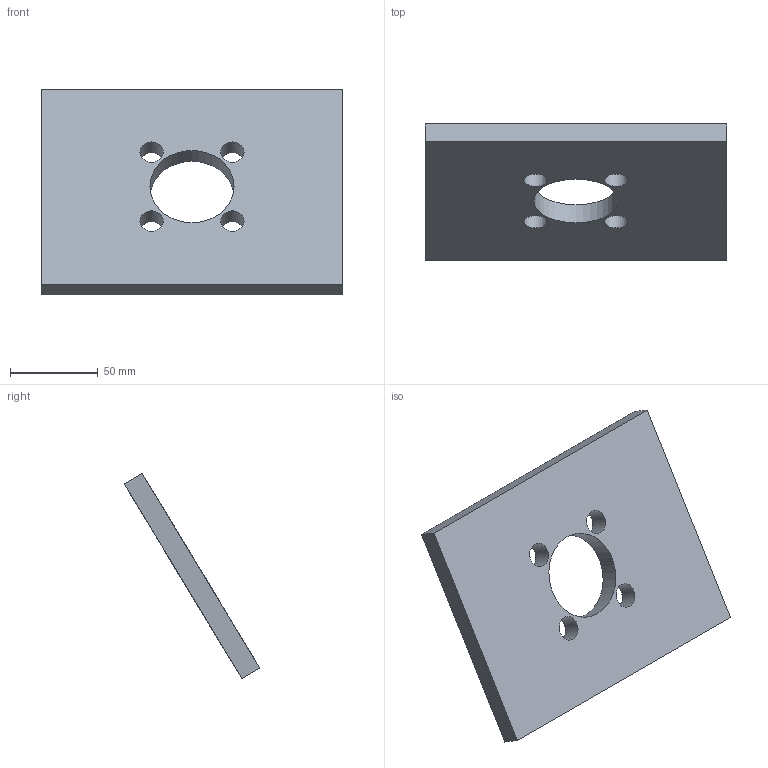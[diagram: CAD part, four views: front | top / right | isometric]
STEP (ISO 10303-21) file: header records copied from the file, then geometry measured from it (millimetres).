
FILE_DESCRIPTION(('Open CASCADE Model'),'2;1');
FILE_NAME('Open CASCADE Shape Model','2026-09-19T12:55:26',('Author'),( 'Open CASCADE'),'Open CASCADE STEP processor 7.9','Open CASCADE 7.9' ,'Unknown');
FILE_SCHEMA(('AUTOMOTIVE_DESIGN { 1 0 10303 214 1 1 1 1 }'));
Length unit declared in the file: millimetre
Products named in the file (1): Open CASCADE STEP translator 7.9 496
Bounding box: 172 x 77.47 x 117.49 mm (x, y, z)
Volume: 239734.6 mm3; surface area: 51049.1 mm2
Topology: 1 solids, 1 shells, 11 faces, 27 edges, 18 vertices
Faces by surface type: plane 6, cylinder 5
Full cylindrical faces by diameter (mm): 13.5 x4, 48 x1
Entity records: 727 total; most frequent: CARTESIAN_POINT 141, DIRECTION 110, LINE 61, VECTOR 61, ORIENTED_EDGE 54, PCURVE 54, DEFINITIONAL_REPRESENTATION 54, EDGE_CURVE 27
